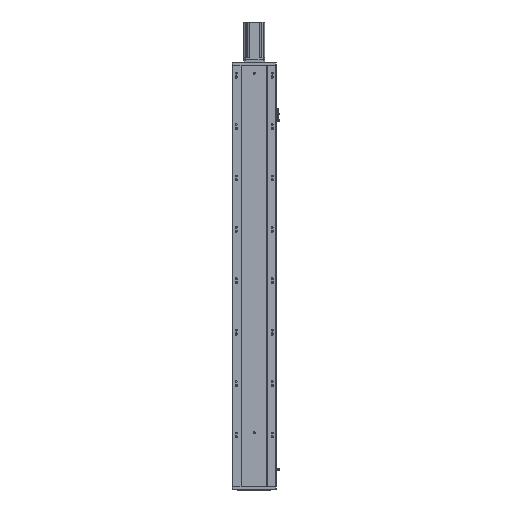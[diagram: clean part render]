
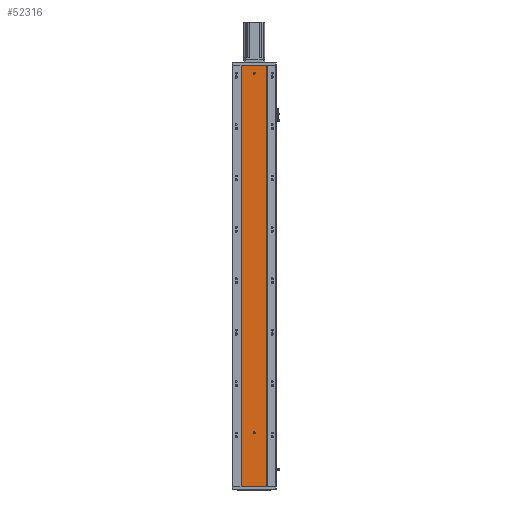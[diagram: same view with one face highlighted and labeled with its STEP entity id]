
A CAD part, front view. The second image highlights one B-rep face of the part: STEP entity #52316.
In plain terms, the highlighted planar face has unit normal (0, -1, 0).
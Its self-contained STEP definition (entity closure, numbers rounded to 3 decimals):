
#1294 = EDGE_CURVE ( 'NONE', #22338, #22413, #42632, .T. ) ;
#1324 = EDGE_CURVE ( 'NONE', #22334, #22413, #35104, .T. ) ;
#1354 = EDGE_CURVE ( 'NONE', #51628, #51625, #42694, .T. ) ;
#1367 = EDGE_CURVE ( 'NONE', #22363, #22334, #42683, .T. ) ;
#1369 = EDGE_CURVE ( 'NONE', #51588, #51540, #42667, .T. ) ;
#1390 = EDGE_CURVE ( 'NONE', #22363, #22338, #35077, .T. ) ;
#8642 = EDGE_CURVE ( 'NONE', #51540, #51588, #48791, .T. ) ;
#8686 = EDGE_CURVE ( 'NONE', #51625, #51628, #48871, .T. ) ;
#9074 = AXIS2_PLACEMENT_3D ( 'NONE', #18254, #18225, #18260 ) ;
#9086 = AXIS2_PLACEMENT_3D ( 'NONE', #18228, #18261, #18263 ) ;
#10879 = ORIENTED_EDGE ( 'NONE', *, *, #1354, .F. ) ;
#10883 = ORIENTED_EDGE ( 'NONE', *, *, #8686, .F. ) ;
#10899 = ORIENTED_EDGE ( 'NONE', *, *, #1390, .T. ) ;
#10903 = ORIENTED_EDGE ( 'NONE', *, *, #8642, .F. ) ;
#10969 = ORIENTED_EDGE ( 'NONE', *, *, #1294, .T. ) ;
#10971 = ORIENTED_EDGE ( 'NONE', *, *, #1324, .F. ) ;
#10987 = ORIENTED_EDGE ( 'NONE', *, *, #1367, .F. ) ;
#11085 = ORIENTED_EDGE ( 'NONE', *, *, #1369, .F. ) ;
#13094 = FACE_BOUND ( 'NONE', #36329, .T. ) ;
#13096 = FACE_BOUND ( 'NONE', #36341, .T. ) ;
#13099 = FACE_OUTER_BOUND ( 'NONE', #36357, .T. ) ;
#14405 = CARTESIAN_POINT ( 'NONE',  ( 86.97, 79.476, 0. ) ) ;
#14410 = CARTESIAN_POINT ( 'NONE',  ( 185.97, 79.476, 1640. ) ) ;
#14481 = CARTESIAN_POINT ( 'NONE',  ( 86.97, 79.476, 1640. ) ) ;
#14496 = CARTESIAN_POINT ( 'NONE',  ( 185.97, 79.476, 0. ) ) ;
#16030 = CARTESIAN_POINT ( 'NONE',  ( 136.47, 79.476, 1614. ) ) ;
#16094 = CARTESIAN_POINT ( 'NONE',  ( 136.47, 79.476, 1606. ) ) ;
#16138 = CARTESIAN_POINT ( 'NONE',  ( 136.47, 79.476, 214. ) ) ;
#16169 = CARTESIAN_POINT ( 'NONE',  ( 136.47, 79.476, 206. ) ) ;
#16983 = DIRECTION ( 'NONE',  ( 0., 1., 0. ) ) ;
#16987 = PLANE ( 'NONE',  #45252 ) ;
#17004 = DIRECTION ( 'NONE',  ( 0., 0., 1. ) ) ;
#17013 = CARTESIAN_POINT ( 'NONE',  ( 0., 79.476, 1640. ) ) ;
#18191 = CARTESIAN_POINT ( 'NONE',  ( 185.97, 79.476, 1093.333 ) ) ;
#18198 = CARTESIAN_POINT ( 'NONE',  ( 0., 79.476, 0. ) ) ;
#18211 = DIRECTION ( 'NONE',  ( 1., 0., 0. ) ) ;
#18215 = CARTESIAN_POINT ( 'NONE',  ( 185.97, 79.476, 1640. ) ) ;
#18218 = CARTESIAN_POINT ( 'NONE',  ( 185.97, 79.476, 546.667 ) ) ;
#18219 = CARTESIAN_POINT ( 'NONE',  ( 185.97, 79.476, 0. ) ) ;
#18225 = DIRECTION ( 'NONE',  ( 0., -1., 0. ) ) ;
#18228 = CARTESIAN_POINT ( 'NONE',  ( 136.47, 79.476, 1610. ) ) ;
#18232 = DIRECTION ( 'NONE',  ( 1., 0., 0. ) ) ;
#18249 = CARTESIAN_POINT ( 'NONE',  ( 0., 79.476, 1640. ) ) ;
#18254 = CARTESIAN_POINT ( 'NONE',  ( 136.47, 79.476, 210. ) ) ;
#18260 = DIRECTION ( 'NONE',  ( 0., 0., -1. ) ) ;
#18261 = DIRECTION ( 'NONE',  ( 0., -1., 0. ) ) ;
#18263 = DIRECTION ( 'NONE',  ( 0., 0., -1. ) ) ;
#18277 = CARTESIAN_POINT ( 'NONE',  ( 86.97, 79.476, 546.667 ) ) ;
#18293 = CARTESIAN_POINT ( 'NONE',  ( 86.97, 79.476, 1640. ) ) ;
#18294 = CARTESIAN_POINT ( 'NONE',  ( 86.97, 79.476, 1093.333 ) ) ;
#18298 = CARTESIAN_POINT ( 'NONE',  ( 86.97, 79.476, 0. ) ) ;
#19617 = DIRECTION ( 'NONE',  ( 0., -1., 0. ) ) ;
#19620 = CARTESIAN_POINT ( 'NONE',  ( 136.47, 79.476, 1610. ) ) ;
#19621 = DIRECTION ( 'NONE',  ( 0., 0., -1. ) ) ;
#19835 = DIRECTION ( 'NONE',  ( 0., 0., -1. ) ) ;
#19837 = DIRECTION ( 'NONE',  ( 0., -1., 0. ) ) ;
#19854 = CARTESIAN_POINT ( 'NONE',  ( 136.47, 79.476, 210. ) ) ;
#22334 = VERTEX_POINT ( 'NONE', #14410 ) ;
#22338 = VERTEX_POINT ( 'NONE', #14405 ) ;
#22363 = VERTEX_POINT ( 'NONE', #14481 ) ;
#22413 = VERTEX_POINT ( 'NONE', #14496 ) ;
#35077 = B_SPLINE_CURVE_WITH_KNOTS ( 'NONE', 3,
 ( #18293, #18294, #18277, #18298 ),
 .UNSPECIFIED., .F., .F.,
 ( 4, 4 ),
 ( 0., 1. ),
 .UNSPECIFIED. ) ;
#35104 = B_SPLINE_CURVE_WITH_KNOTS ( 'NONE', 3,
 ( #18215, #18191, #18218, #18219 ),
 .UNSPECIFIED., .F., .F.,
 ( 4, 4 ),
 ( 0., 1. ),
 .UNSPECIFIED. ) ;
#36329 = EDGE_LOOP ( 'NONE', ( #11085, #10903 ) ) ;
#36341 = EDGE_LOOP ( 'NONE', ( #10879, #10883 ) ) ;
#36357 = EDGE_LOOP ( 'NONE', ( #10969, #10971, #10987, #10899 ) ) ;
#42624 = VECTOR ( 'NONE', #18211, 1000. ) ;
#42632 = LINE ( 'NONE', #18198, #42624 ) ;
#42667 = CIRCLE ( 'NONE', #9086, 4. ) ;
#42683 = LINE ( 'NONE', #18249, #42709 ) ;
#42694 = CIRCLE ( 'NONE', #9074, 4. ) ;
#42709 = VECTOR ( 'NONE', #18232, 1000. ) ;
#44704 = AXIS2_PLACEMENT_3D ( 'NONE', #19620, #19617, #19621 ) ;
#44713 = AXIS2_PLACEMENT_3D ( 'NONE', #19854, #19837, #19835 ) ;
#45252 = AXIS2_PLACEMENT_3D ( 'NONE', #17013, #16983, #17004 ) ;
#48791 = CIRCLE ( 'NONE', #44704, 4. ) ;
#48871 = CIRCLE ( 'NONE', #44713, 4. ) ;
#51540 = VERTEX_POINT ( 'NONE', #16030 ) ;
#51588 = VERTEX_POINT ( 'NONE', #16094 ) ;
#51625 = VERTEX_POINT ( 'NONE', #16138 ) ;
#51628 = VERTEX_POINT ( 'NONE', #16169 ) ;
#52316 = ADVANCED_FACE ( 'NONE', ( #13094, #13096, #13099 ), #16987, .F. ) ;
